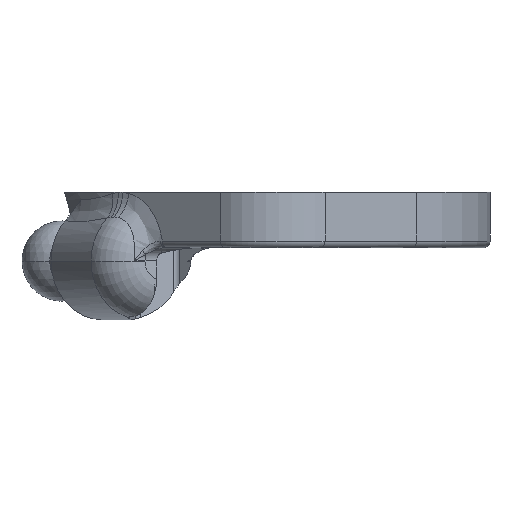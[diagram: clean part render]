
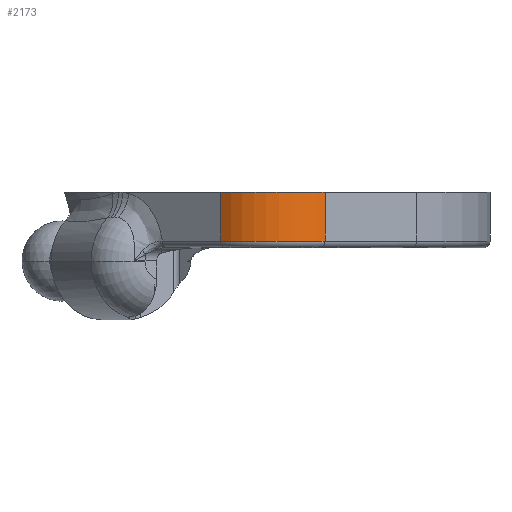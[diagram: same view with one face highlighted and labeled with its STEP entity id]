
A CAD part, front view. The second image highlights one B-rep face of the part: STEP entity #2173.
In plain terms, the highlighted cylindrical face has radius 6 mm (diameter 12 mm), a partial arc.
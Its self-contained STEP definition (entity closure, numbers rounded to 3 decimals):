
#173 = VECTOR ( 'NONE', #6075, 1000. ) ;
#320 = DIRECTION ( 'NONE',  ( 1., 0., 0. ) ) ;
#376 = VERTEX_POINT ( 'NONE', #4281 ) ;
#377 = DIRECTION ( 'NONE',  ( 0., 0., 1. ) ) ;
#395 = EDGE_LOOP ( 'NONE', ( #7184, #2105, #2523, #3933 ) ) ;
#471 = VERTEX_POINT ( 'NONE', #2123 ) ;
#621 = VECTOR ( 'NONE', #377, 1000. ) ;
#706 = CIRCLE ( 'NONE', #6755, 6. ) ;
#760 = CARTESIAN_POINT ( 'NONE',  ( -3.969, -18.5, -4.2 ) ) ;
#779 = CARTESIAN_POINT ( 'NONE',  ( 3.969, -18.5, -3.7 ) ) ;
#1179 = AXIS2_PLACEMENT_3D ( 'NONE', #4780, #2167, #320 ) ;
#1314 = FACE_OUTER_BOUND ( 'NONE', #395, .T. ) ;
#2105 = ORIENTED_EDGE ( 'NONE', *, *, #2292, .T. ) ;
#2123 = CARTESIAN_POINT ( 'NONE',  ( -3.969, -18.5, 0. ) ) ;
#2167 = DIRECTION ( 'NONE',  ( 0., 0., 1. ) ) ;
#2173 = ADVANCED_FACE ( 'NONE', ( #1314 ), #6975, .T. ) ;
#2189 = CIRCLE ( 'NONE', #1179, 6. ) ;
#2292 = EDGE_CURVE ( 'NONE', #2743, #4187, #706, .T. ) ;
#2489 = EDGE_CURVE ( 'NONE', #2743, #471, #5490, .T. ) ;
#2523 = ORIENTED_EDGE ( 'NONE', *, *, #5394, .T. ) ;
#2743 = VERTEX_POINT ( 'NONE', #2923 ) ;
#2827 = DIRECTION ( 'NONE',  ( 1., 0., 0. ) ) ;
#2923 = CARTESIAN_POINT ( 'NONE',  ( -3.969, -18.5, -3.7 ) ) ;
#3028 = EDGE_CURVE ( 'NONE', #471, #376, #2189, .T. ) ;
#3053 = CARTESIAN_POINT ( 'NONE',  ( 0., -14., -4.2 ) ) ;
#3308 = CARTESIAN_POINT ( 'NONE',  ( 0., -14., -3.7 ) ) ;
#3933 = ORIENTED_EDGE ( 'NONE', *, *, #3028, .F. ) ;
#4154 = DIRECTION ( 'NONE',  ( 1., 0., 0. ) ) ;
#4183 = DIRECTION ( 'NONE',  ( 0., 0., 1. ) ) ;
#4187 = VERTEX_POINT ( 'NONE', #779 ) ;
#4281 = CARTESIAN_POINT ( 'NONE',  ( 3.969, -18.5, 0. ) ) ;
#4617 = LINE ( 'NONE', #6607, #173 ) ;
#4780 = CARTESIAN_POINT ( 'NONE',  ( 0., -14., 0. ) ) ;
#5017 = DIRECTION ( 'NONE',  ( 0., 0., 1. ) ) ;
#5394 = EDGE_CURVE ( 'NONE', #4187, #376, #4617, .T. ) ;
#5490 = LINE ( 'NONE', #760, #621 ) ;
#6010 = AXIS2_PLACEMENT_3D ( 'NONE', #3053, #4183, #4154 ) ;
#6075 = DIRECTION ( 'NONE',  ( 0., 0., 1. ) ) ;
#6607 = CARTESIAN_POINT ( 'NONE',  ( 3.969, -18.5, -4.2 ) ) ;
#6755 = AXIS2_PLACEMENT_3D ( 'NONE', #3308, #5017, #2827 ) ;
#6975 = CYLINDRICAL_SURFACE ( 'NONE', #6010, 6. ) ;
#7184 = ORIENTED_EDGE ( 'NONE', *, *, #2489, .F. ) ;
